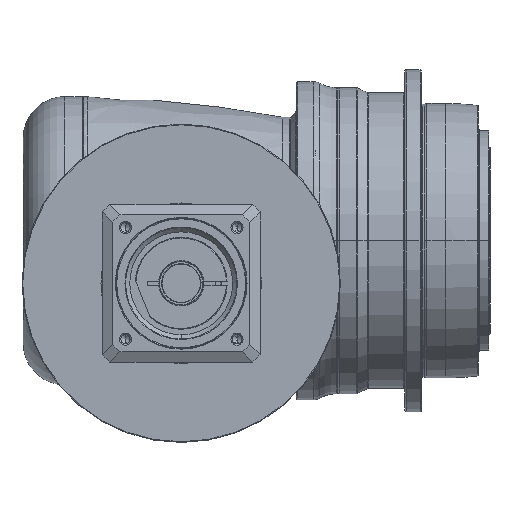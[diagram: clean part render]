
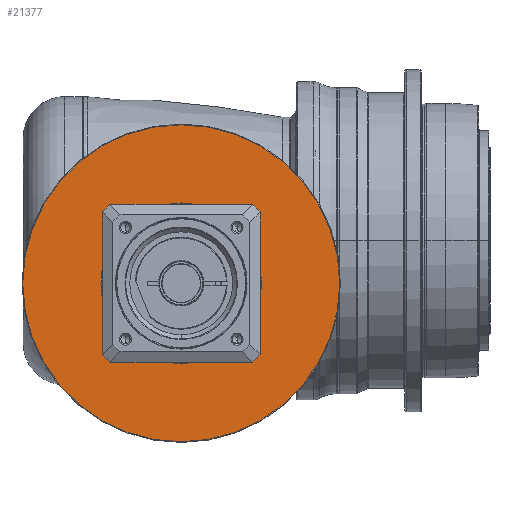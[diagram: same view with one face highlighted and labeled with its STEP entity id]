
A CAD part, front view. The second image highlights one B-rep face of the part: STEP entity #21377.
In plain terms, the highlighted planar face has unit normal (0, -1, 0) as drawn and (1, 0, 0) by its records, which use the part's own axes.
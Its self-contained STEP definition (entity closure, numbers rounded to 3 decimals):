
#20008=CARTESIAN_POINT('',(-5.5,0.,0.));
#20009=DIRECTION('',(-1.,0.,0.));
#20010=DIRECTION('',(0.,-1.,0.));
#20011=AXIS2_PLACEMENT_3D('',#20008,#20009,#20010);
#20013=CARTESIAN_POINT('',(-5.5,0.,0.));
#20014=DIRECTION('',(-1.,0.,0.));
#20015=DIRECTION('',(0.,1.,0.));
#20016=AXIS2_PLACEMENT_3D('',#20013,#20014,#20015);
#20018=CARTESIAN_POINT('',(-5.5,0.,0.));
#20019=DIRECTION('',(-1.,0.,0.));
#20020=DIRECTION('',(0.,-1.,0.));
#20021=AXIS2_PLACEMENT_3D('',#20018,#20019,#20020);
#20023=CARTESIAN_POINT('',(-5.5,0.,0.));
#20024=DIRECTION('',(-1.,0.,0.));
#20025=DIRECTION('',(0.,1.,0.));
#20026=AXIS2_PLACEMENT_3D('',#20023,#20024,#20025);
#20315=CARTESIAN_POINT('',(-5.5,-115.5,0.));
#20316=CARTESIAN_POINT('',(-5.5,115.5,0.));
#20317=VERTEX_POINT('',#20315);
#20318=VERTEX_POINT('',#20316);
#20373=CARTESIAN_POINT('',(-5.5,-58.5,0.));
#20374=CARTESIAN_POINT('',(-5.5,58.5,0.));
#20375=VERTEX_POINT('',#20373);
#20376=VERTEX_POINT('',#20374);
#21362=CARTESIAN_POINT('',(-5.5,0.,0.));
#21363=DIRECTION('',(1.,0.,0.));
#21364=DIRECTION('',(0.,-1.,0.));
#21365=AXIS2_PLACEMENT_3D('',#21362,#21363,#21364);
#21366=PLANE('',#21365);
#21367=ORIENTED_EDGE('',*,*,#21318,.T.);
#21368=ORIENTED_EDGE('',*,*,#21303,.T.);
#21369=EDGE_LOOP('',(#21367,#21368));
#21370=FACE_OUTER_BOUND('',#21369,.F.);
#21372=ORIENTED_EDGE('',*,*,#21371,.F.);
#21374=ORIENTED_EDGE('',*,*,#21373,.F.);
#21375=EDGE_LOOP('',(#21372,#21374));
#21376=FACE_BOUND('',#21375,.F.);
#21377=ADVANCED_FACE('',(#21370,#21376),#21366,.T.);
#20012=CIRCLE('',#20011,58.5);
#20017=CIRCLE('',#20016,58.5);
#20022=CIRCLE('',#20021,115.5);
#20027=CIRCLE('',#20026,115.5);
#21303=EDGE_CURVE('',#20318,#20317,#20027,.T.);
#21318=EDGE_CURVE('',#20317,#20318,#20022,.T.);
#21371=EDGE_CURVE('',#20375,#20376,#20012,.T.);
#21373=EDGE_CURVE('',#20376,#20375,#20017,.T.);
